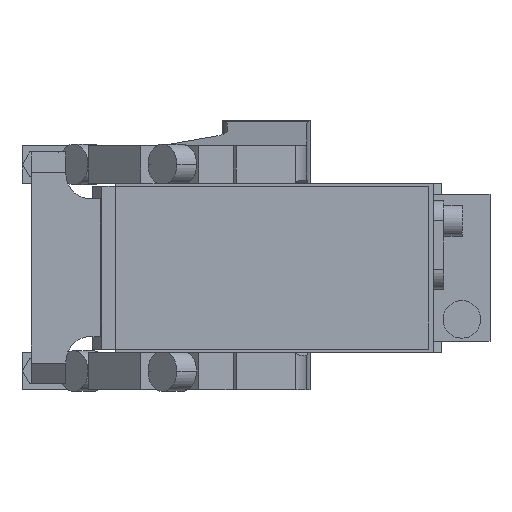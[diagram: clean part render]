
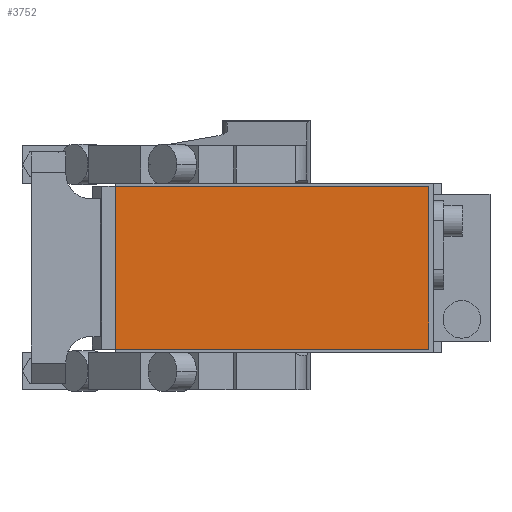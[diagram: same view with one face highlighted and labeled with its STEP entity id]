
A CAD part, front view. The second image highlights one B-rep face of the part: STEP entity #3752.
In plain terms, the highlighted planar face has unit normal (0, -1, 0).
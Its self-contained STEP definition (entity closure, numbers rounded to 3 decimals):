
#578 = LINE ( 'NONE', #1788, #6212 ) ;
#761 = ORIENTED_EDGE ( 'NONE', *, *, #4745, .T. ) ;
#993 = VERTEX_POINT ( 'NONE', #9073 ) ;
#1013 = CARTESIAN_POINT ( 'NONE',  ( -19., -286.5, 26. ) ) ;
#1029 = VERTEX_POINT ( 'NONE', #1013 ) ;
#1436 = EDGE_CURVE ( 'NONE', #1029, #5331, #578, .T. ) ;
#1470 = DIRECTION ( 'NONE',  ( 0., 0., -1. ) ) ;
#1788 = CARTESIAN_POINT ( 'NONE',  ( -19., -286.5, 26. ) ) ;
#1924 = DIRECTION ( 'NONE',  ( 1., 0., 0. ) ) ;
#2707 = VECTOR ( 'NONE', #1924, 1000. ) ;
#3183 = VECTOR ( 'NONE', #10455, 1000. ) ;
#3752 = ADVANCED_FACE ( 'NONE', ( #13301 ), #11001, .T. ) ;
#4152 = ORIENTED_EDGE ( 'NONE', *, *, #1436, .T. ) ;
#4745 = EDGE_CURVE ( 'NONE', #5713, #1029, #13701, .T. ) ;
#5331 = VERTEX_POINT ( 'NONE', #12459 ) ;
#5713 = VERTEX_POINT ( 'NONE', #10070 ) ;
#5765 = CARTESIAN_POINT ( 'NONE',  ( 81., -286.5, 26. ) ) ;
#6212 = VECTOR ( 'NONE', #6273, 1000. ) ;
#6248 = DIRECTION ( 'NONE',  ( 0., -1., 0. ) ) ;
#6273 = DIRECTION ( 'NONE',  ( 0., 0., -1. ) ) ;
#6397 = ORIENTED_EDGE ( 'NONE', *, *, #6754, .T. ) ;
#6754 = EDGE_CURVE ( 'NONE', #5331, #993, #7644, .T. ) ;
#7170 = EDGE_CURVE ( 'NONE', #993, #5713, #8074, .T. ) ;
#7178 = AXIS2_PLACEMENT_3D ( 'NONE', #8407, #6248, #1470 ) ;
#7644 = LINE ( 'NONE', #12471, #2707 ) ;
#7655 = CARTESIAN_POINT ( 'NONE',  ( -19., -286.5, 26. ) ) ;
#7723 = DIRECTION ( 'NONE',  ( -1., 0., 0. ) ) ;
#7891 = ORIENTED_EDGE ( 'NONE', *, *, #7170, .T. ) ;
#8074 = LINE ( 'NONE', #5765, #3183 ) ;
#8407 = CARTESIAN_POINT ( 'NONE',  ( 0., -286.5, 0. ) ) ;
#9073 = CARTESIAN_POINT ( 'NONE',  ( 81., -286.5, -26. ) ) ;
#9604 = VECTOR ( 'NONE', #7723, 1000. ) ;
#10070 = CARTESIAN_POINT ( 'NONE',  ( 81., -286.5, 26. ) ) ;
#10455 = DIRECTION ( 'NONE',  ( 0., 0., 1. ) ) ;
#11001 = PLANE ( 'NONE',  #7178 ) ;
#12459 = CARTESIAN_POINT ( 'NONE',  ( -19., -286.5, -26. ) ) ;
#12471 = CARTESIAN_POINT ( 'NONE',  ( -19., -286.5, -26. ) ) ;
#12602 = EDGE_LOOP ( 'NONE', ( #4152, #6397, #7891, #761 ) ) ;
#13301 = FACE_OUTER_BOUND ( 'NONE', #12602, .T. ) ;
#13701 = LINE ( 'NONE', #7655, #9604 ) ;
